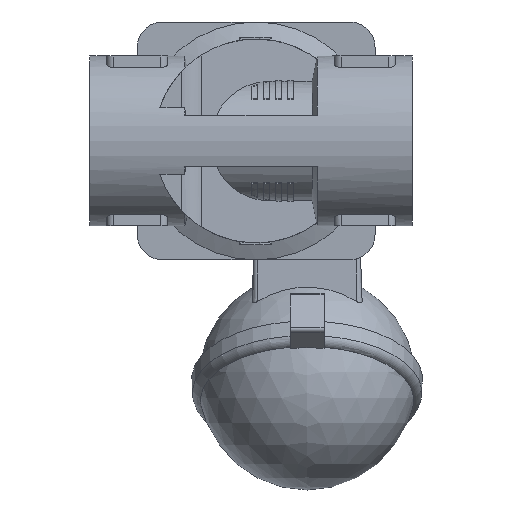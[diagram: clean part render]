
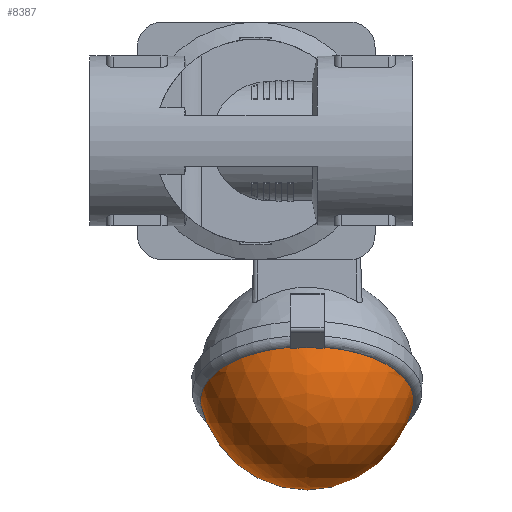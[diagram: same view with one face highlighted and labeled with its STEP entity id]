
A CAD part, front view. The second image highlights one B-rep face of the part: STEP entity #8387.
In plain terms, the highlighted spherical face has radius 32 mm.
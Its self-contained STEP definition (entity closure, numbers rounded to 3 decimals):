
#20=SPHERICAL_SURFACE('',#9036,32.);
#2790=ORIENTED_EDGE('',*,*,#4138,.F.);
#2791=ORIENTED_EDGE('',*,*,#4139,.T.);
#2792=ORIENTED_EDGE('',*,*,#4140,.T.);
#2793=ORIENTED_EDGE('',*,*,#4141,.F.);
#2794=ORIENTED_EDGE('',*,*,#4142,.F.);
#2795=ORIENTED_EDGE('',*,*,#4143,.F.);
#2796=ORIENTED_EDGE('',*,*,#4144,.T.);
#2797=ORIENTED_EDGE('',*,*,#4145,.T.);
#4138=EDGE_CURVE('',#4915,#4916,#5303,.F.);
#4139=EDGE_CURVE('',#4915,#4917,#5304,.F.);
#4140=EDGE_CURVE('',#4917,#4918,#5305,.F.);
#4141=EDGE_CURVE('',#4919,#4918,#5306,.F.);
#4142=EDGE_CURVE('',#4920,#4919,#5307,.F.);
#4143=EDGE_CURVE('',#4921,#4920,#5308,.F.);
#4144=EDGE_CURVE('',#4921,#4922,#5309,.F.);
#4145=EDGE_CURVE('',#4922,#4916,#5310,.F.);
#4915=VERTEX_POINT('',#13084);
#4916=VERTEX_POINT('',#13085);
#4917=VERTEX_POINT('',#13087);
#4918=VERTEX_POINT('',#13089);
#4919=VERTEX_POINT('',#13091);
#4920=VERTEX_POINT('',#13093);
#4921=VERTEX_POINT('',#13095);
#4922=VERTEX_POINT('',#13097);
#5303=CIRCLE('',#9037,31.368);
#5304=CIRCLE('',#9038,31.607);
#5305=CIRCLE('',#9039,31.291);
#5306=CIRCLE('',#9040,31.607);
#5307=CIRCLE('',#9041,31.368);
#5308=CIRCLE('',#9042,30.708);
#5309=CIRCLE('',#9043,30.984);
#5310=CIRCLE('',#9044,30.708);
#5708=EDGE_LOOP('',(#2790,#2791,#2792,#2793,#2794,#2795,#2796,#2797));
#6164=FACE_BOUND('',#5708,.T.);
#8387=ADVANCED_FACE('',(#6164),#20,.T.);
#9036=AXIS2_PLACEMENT_3D('',#13082,#10673,#10674);
#9037=AXIS2_PLACEMENT_3D('',#13083,#10675,#10676);
#9038=AXIS2_PLACEMENT_3D('',#13086,#10677,#10678);
#9039=AXIS2_PLACEMENT_3D('',#13088,#10679,#10680);
#9040=AXIS2_PLACEMENT_3D('',#13090,#10681,#10682);
#9041=AXIS2_PLACEMENT_3D('',#13092,#10683,#10684);
#9042=AXIS2_PLACEMENT_3D('',#13094,#10685,#10686);
#9043=AXIS2_PLACEMENT_3D('',#13096,#10687,#10688);
#9044=AXIS2_PLACEMENT_3D('',#13098,#10689,#10690);
#10673=DIRECTION('',(1.,0.,0.));
#10674=DIRECTION('',(0.,-1.,0.));
#10675=DIRECTION('',(-0.866,-0.5,0.));
#10676=DIRECTION('',(0.5,-0.866,0.));
#10677=DIRECTION('',(0.,0.,1.));
#10678=DIRECTION('',(1.,0.,0.));
#10679=DIRECTION('',(0.866,0.5,0.));
#10680=DIRECTION('',(-0.5,0.866,0.));
#10681=DIRECTION('',(0.,0.,1.));
#10682=DIRECTION('',(1.,0.,0.));
#10683=DIRECTION('',(-0.866,-0.5,0.));
#10684=DIRECTION('',(0.5,-0.866,0.));
#10685=DIRECTION('',(0.,0.,1.));
#10686=DIRECTION('',(1.,0.,0.));
#10687=DIRECTION('',(0.866,0.5,0.));
#10688=DIRECTION('',(-0.5,0.866,0.));
#10689=DIRECTION('',(0.,0.,1.));
#10690=DIRECTION('',(1.,0.,0.));
#13082=CARTESIAN_POINT('',(-70.7,0.,0.));
#13083=CARTESIAN_POINT('',(-76.183,-3.165,0.));
#13084=CARTESIAN_POINT('',(-60.699,-29.983,-5.));
#13085=CARTESIAN_POINT('',(-91.207,22.858,-9.));
#13086=CARTESIAN_POINT('',(-70.7,0.,-5.));
#13087=CARTESIAN_POINT('',(-61.058,-30.1,-5.));
#13088=CARTESIAN_POINT('',(-76.502,-3.35,0.));
#13089=CARTESIAN_POINT('',(-61.058,-30.1,5.));
#13090=CARTESIAN_POINT('',(-70.7,0.,5.));
#13091=CARTESIAN_POINT('',(-60.699,-29.983,5.));
#13092=CARTESIAN_POINT('',(-76.183,-3.165,0.));
#13093=CARTESIAN_POINT('',(-91.207,22.858,9.));
#13094=CARTESIAN_POINT('',(-70.7,0.,9.));
#13095=CARTESIAN_POINT('',(-92.452,21.676,9.));
#13096=CARTESIAN_POINT('',(-77.628,-4.,0.));
#13097=CARTESIAN_POINT('',(-92.452,21.676,-9.));
#13098=CARTESIAN_POINT('',(-70.7,0.,-9.));
